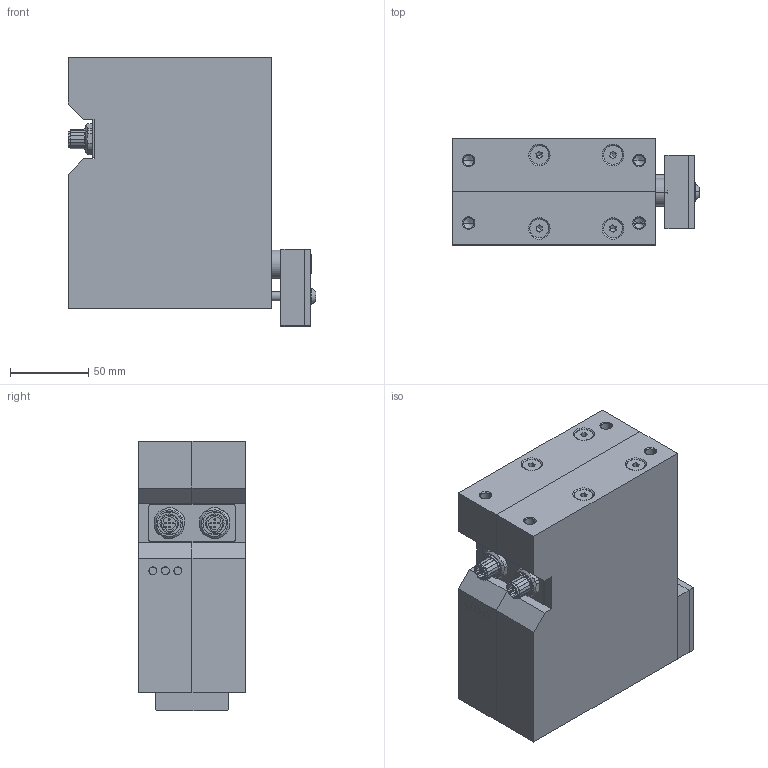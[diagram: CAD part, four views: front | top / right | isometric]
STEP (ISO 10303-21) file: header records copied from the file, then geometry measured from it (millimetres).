
FILE_DESCRIPTION (( 'STEP AP203' ), '1' );
FILE_NAME ('ELD-430-11-5B_Anschlag oben ausgefahren.STEP', '2019-02-12T14:08:27', ( '' ), ( '' ), 'SwSTEP 2.0', 'SolidWorks 2017', '' );
FILE_SCHEMA (( 'CONFIG_CONTROL_DESIGN' ));
Length unit declared in the file: millimetre
Products named in the file (1): ELD-430-11-5B_Anschlag oben ausgefahren
Bounding box: 158.32 x 68 x 172.5 mm (x, y, z)
Volume: 1266872.1 mm3; surface area: 197089.8 mm2
Topology: 44 solids, 44 shells, 765 faces, 1838 edges, 1147 vertices
Faces by surface type: plane 480, cylinder 169, cone 110, torus 4, sphere 2
Entity records: 21777 total; most frequent: CARTESIAN_POINT 3813, DIRECTION 3764, ORIENTED_EDGE 3584, EDGE_CURVE 1792, LINE 1328, VECTOR 1328, AXIS2_PLACEMENT_3D 1218, VERTEX_POINT 1147
